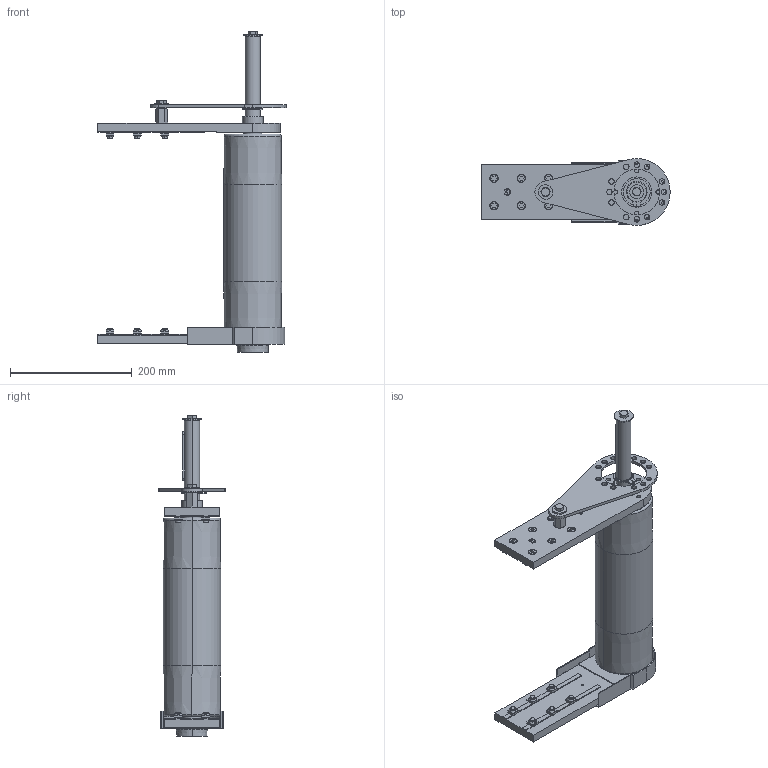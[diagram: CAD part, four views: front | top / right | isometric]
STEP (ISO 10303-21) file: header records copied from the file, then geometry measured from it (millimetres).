
FILE_DESCRIPTION (( 'STEP AP203' ), '1' );
FILE_NAME ('084.095.KD.63.300.STEP', '2015-06-03T09:03:37', ( '' ), ( '' ), 'SwSTEP 2.0', 'SolidWorks 2012', '' );
FILE_SCHEMA (( 'CONFIG_CONTROL_DESIGN' ));
Length unit declared in the file: millimetre
Products named in the file (1): 084.095.KD.63.300
Bounding box: 310 x 110 x 528.83 mm (x, y, z)
Volume: 1691162.8 mm3; surface area: 669829.7 mm2
Topology: 53 solids, 54 shells, 1352 faces, 3427 edges, 2234 vertices
Faces by surface type: plane 717, cylinder 383, cone 99, torus 96, bspline 48, sphere 9
Entity records: 42138 total; most frequent: CARTESIAN_POINT 8839, DIRECTION 6991, ORIENTED_EDGE 6810, EDGE_CURVE 3405, AXIS2_PLACEMENT_3D 2515, VERTEX_POINT 2223, LINE 1961, VECTOR 1961
